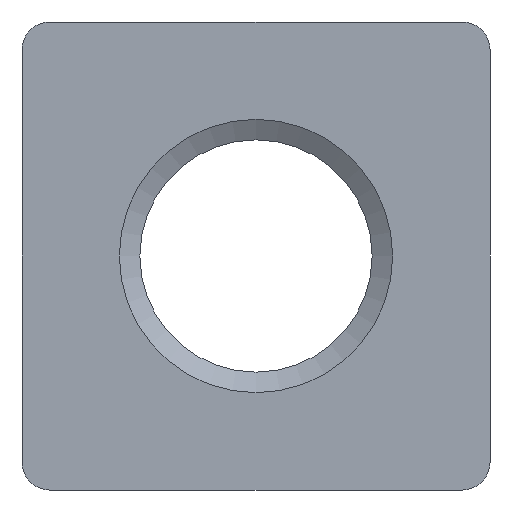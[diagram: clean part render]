
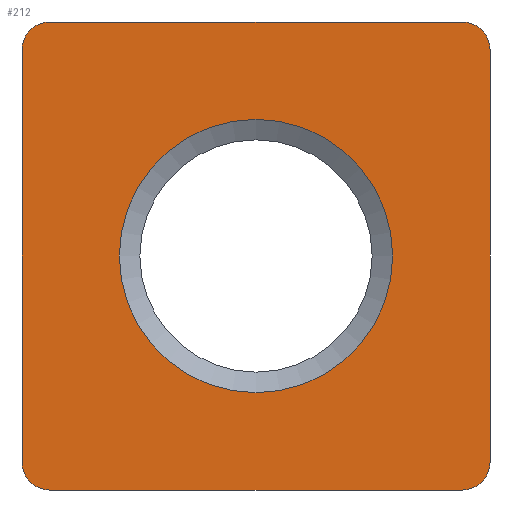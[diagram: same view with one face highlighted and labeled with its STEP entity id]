
A CAD part, front view. The second image highlights one B-rep face of the part: STEP entity #212.
In plain terms, the highlighted planar face has unit normal (0, -1, 0).
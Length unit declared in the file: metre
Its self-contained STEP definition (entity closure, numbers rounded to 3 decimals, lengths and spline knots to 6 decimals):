
#22=FACE_BOUND('',#42,.T.);
#27=FACE_OUTER_BOUND('',#41,.T.);
#41=EDGE_LOOP('',(#158,#159,#160,#161,#162,#163,#164,#165));
#42=EDGE_LOOP('',(#166));
#62=CIRCLE('',#234,0.000814);
#63=CIRCLE('',#235,0.000814);
#64=CIRCLE('',#236,0.000814);
#65=CIRCLE('',#237,0.000814);
#66=CIRCLE('',#238,0.004);
#73=LINE('',#345,#89);
#74=LINE('',#349,#90);
#75=LINE('',#353,#91);
#76=LINE('',#356,#92);
#89=VECTOR('',#274,0.012071);
#90=VECTOR('',#277,0.012071);
#91=VECTOR('',#280,0.012071);
#92=VECTOR('',#283,0.012071);
#110=VERTEX_POINT('',#341);
#111=VERTEX_POINT('',#342);
#112=VERTEX_POINT('',#344);
#113=VERTEX_POINT('',#346);
#114=VERTEX_POINT('',#348);
#115=VERTEX_POINT('',#350);
#116=VERTEX_POINT('',#352);
#117=VERTEX_POINT('',#354);
#118=VERTEX_POINT('',#357);
#130=EDGE_CURVE('',#110,#111,#62,.T.);
#131=EDGE_CURVE('',#112,#111,#73,.T.);
#132=EDGE_CURVE('',#112,#113,#63,.T.);
#133=EDGE_CURVE('',#114,#113,#74,.T.);
#134=EDGE_CURVE('',#114,#115,#64,.T.);
#135=EDGE_CURVE('',#116,#115,#75,.T.);
#136=EDGE_CURVE('',#116,#117,#65,.T.);
#137=EDGE_CURVE('',#110,#117,#76,.T.);
#138=EDGE_CURVE('',#118,#118,#66,.T.);
#158=ORIENTED_EDGE('',*,*,#130,.T.);
#159=ORIENTED_EDGE('',*,*,#131,.F.);
#160=ORIENTED_EDGE('',*,*,#132,.T.);
#161=ORIENTED_EDGE('',*,*,#133,.F.);
#162=ORIENTED_EDGE('',*,*,#134,.T.);
#163=ORIENTED_EDGE('',*,*,#135,.F.);
#164=ORIENTED_EDGE('',*,*,#136,.T.);
#165=ORIENTED_EDGE('',*,*,#137,.F.);
#166=ORIENTED_EDGE('',*,*,#138,.T.);
#206=PLANE('',#233);
#212=ADVANCED_FACE('',(#27,#22),#206,.F.);
#233=AXIS2_PLACEMENT_3D('',#340,#270,#271);
#234=AXIS2_PLACEMENT_3D('',#343,#272,#273);
#235=AXIS2_PLACEMENT_3D('',#347,#275,#276);
#236=AXIS2_PLACEMENT_3D('',#351,#278,#279);
#237=AXIS2_PLACEMENT_3D('',#355,#281,#282);
#238=AXIS2_PLACEMENT_3D('',#358,#284,#285);
#270=DIRECTION('center_axis',(0.,1.,0.));
#271=DIRECTION('ref_axis',(0.,0.,1.));
#272=DIRECTION('center_axis',(0.,-1.,0.));
#273=DIRECTION('ref_axis',(0.,0.,1.));
#274=DIRECTION('',(0.,0.,-1.));
#275=DIRECTION('center_axis',(0.,-1.,0.));
#276=DIRECTION('ref_axis',(0.,0.,-1.));
#277=DIRECTION('',(1.,0.,0.));
#278=DIRECTION('center_axis',(0.,-1.,0.));
#279=DIRECTION('ref_axis',(0.,0.,1.));
#280=DIRECTION('',(0.,0.,1.));
#281=DIRECTION('center_axis',(0.,-1.,0.));
#282=DIRECTION('ref_axis',(0.,0.,-1.));
#283=DIRECTION('',(-1.,0.,0.));
#284=DIRECTION('center_axis',(0.,1.,0.));
#285=DIRECTION('ref_axis',(0.,0.,1.));
#340=CARTESIAN_POINT('Origin',(0.,0.,0.));
#341=CARTESIAN_POINT('',(0.006036,0.,-0.00685));
#342=CARTESIAN_POINT('',(0.00685,0.,-0.006036));
#343=CARTESIAN_POINT('Origin',(0.006036,0.,-0.006036));
#344=CARTESIAN_POINT('',(0.00685,0.,0.006036));
#345=CARTESIAN_POINT('',(0.00685,0.,0.006036));
#346=CARTESIAN_POINT('',(0.006036,0.,0.00685));
#347=CARTESIAN_POINT('Origin',(0.006036,0.,0.006036));
#348=CARTESIAN_POINT('',(-0.006036,0.,0.00685));
#349=CARTESIAN_POINT('',(-0.006036,0.,0.00685));
#350=CARTESIAN_POINT('',(-0.00685,0.,0.006036));
#351=CARTESIAN_POINT('Origin',(-0.006036,0.,0.006036));
#352=CARTESIAN_POINT('',(-0.00685,0.,-0.006036));
#353=CARTESIAN_POINT('',(-0.00685,0.,-0.006036));
#354=CARTESIAN_POINT('',(-0.006036,0.,-0.00685));
#355=CARTESIAN_POINT('Origin',(-0.006036,0.,-0.006036));
#356=CARTESIAN_POINT('',(0.006036,0.,-0.00685));
#357=CARTESIAN_POINT('',(0.,0.,0.004));
#358=CARTESIAN_POINT('Origin',(0.,0.,0.));
